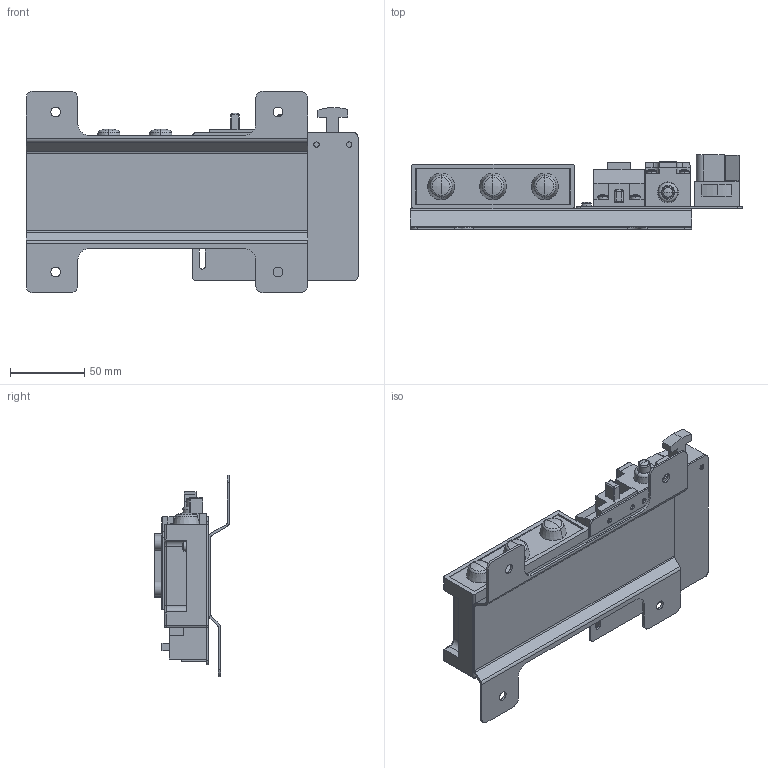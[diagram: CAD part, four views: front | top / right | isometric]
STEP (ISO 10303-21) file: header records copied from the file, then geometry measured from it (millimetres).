
FILE_DESCRIPTION (( 'STEP AP214' ), '1' );
FILE_NAME ('050AS01-10.STEP', '2019-08-16T14:47:33', ( '' ), ( '' ), 'SwSTEP 2.0', 'SolidWorks 2013', '' );
FILE_SCHEMA (( 'AUTOMOTIVE_DESIGN' ));
Length unit declared in the file: millimetre
Products named in the file (1): 050AS01-10
Bounding box: 224 x 50.5 x 136 mm (x, y, z)
Volume: 462616 mm3; surface area: 147202.6 mm2
Topology: 21 solids, 22 shells, 684 faces, 1787 edges, 1151 vertices
Faces by surface type: plane 336, cylinder 144, cone 118, torus 44, sphere 38, bspline 4
Entity records: 29315 total; most frequent: CARTESIAN_POINT 4391, DIRECTION 3727, ORIENTED_EDGE 3558, EDGE_CURVE 1779, AXIS2_PLACEMENT_3D 1447, VERTEX_POINT 1151, LINE 833, VECTOR 833
